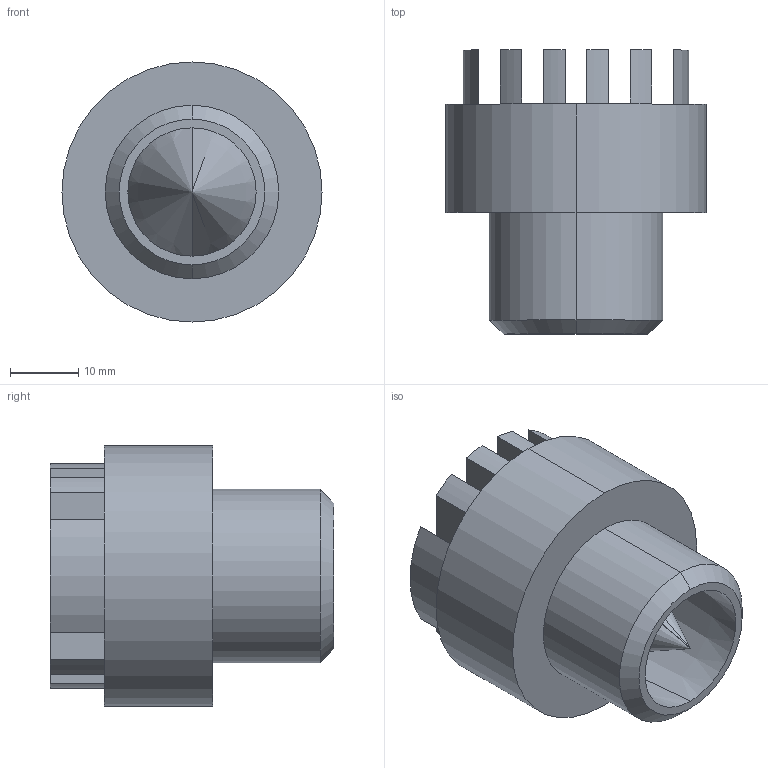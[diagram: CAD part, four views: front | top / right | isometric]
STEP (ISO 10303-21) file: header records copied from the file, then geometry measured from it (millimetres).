
FILE_DESCRIPTION (( 'STEP AP203' ), '1' );
FILE_NAME ('BD2-19-B-A_defeature.STEP', '2023-05-03T13:33:20', ( '' ), ( '' ), 'SwSTEP 2.0', 'SolidWorks 2023', '' );
FILE_SCHEMA (( 'CONFIG_CONTROL_DESIGN' ));
Length unit declared in the file: inch
Products named in the file (1): BD2-19-B-A_defeature
Bounding box: 38.1 x 41.58 x 38.1 mm (x, y, z)
Volume: 25795.6 mm3; surface area: 10059.6 mm2
Topology: 1 solids, 1 shells, 46 faces, 103 edges, 67 vertices
Faces by surface type: plane 21, cylinder 15, cone 10
Entity records: 1362 total; most frequent: DIRECTION 241, CARTESIAN_POINT 215, ORIENTED_EDGE 202, EDGE_CURVE 101, AXIS2_PLACEMENT_3D 93, VERTEX_POINT 67, EDGE_LOOP 56, VECTOR 55
